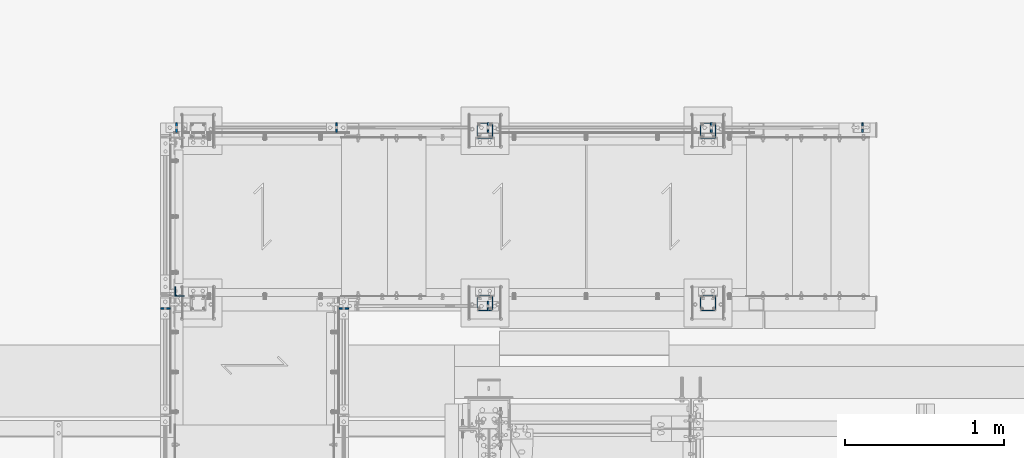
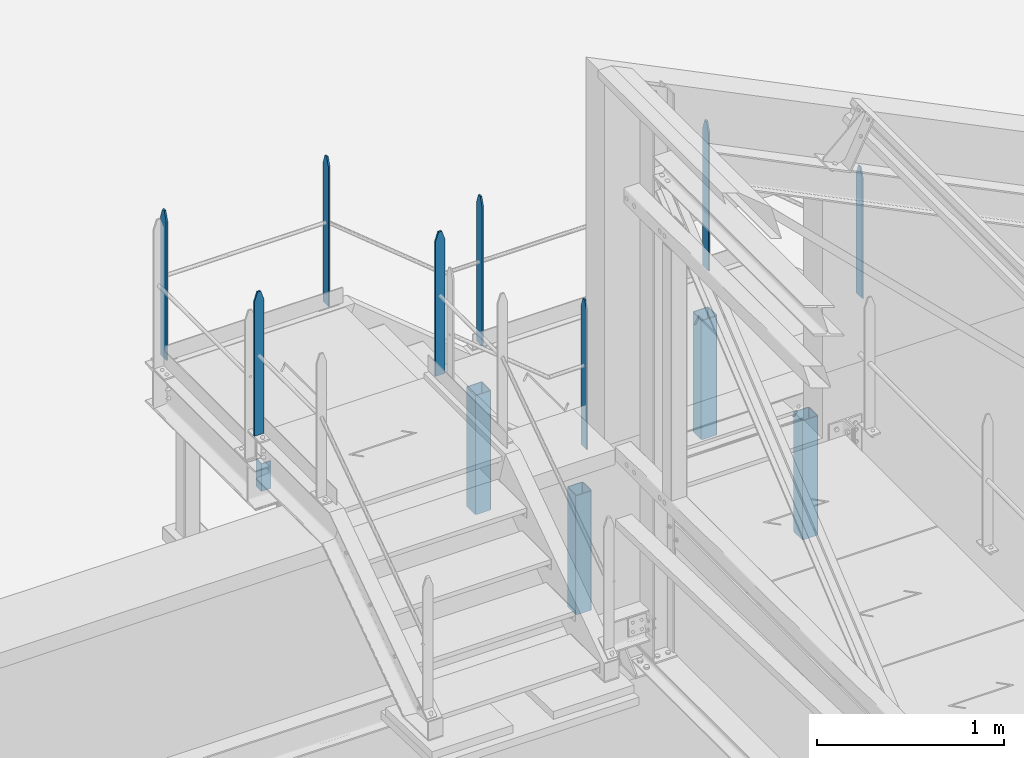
# One storey, part 40 of 362: 13 columns, 9 elements without a shape of their own.
"""IFC2X3 building model written with IfcOpenShell, lengths in millimetres."""

import ifcopenshell
import ifcopenshell.guid

model = None  # the IFC model being written
_history = None  # IfcOwnerHistory: only IFC2X3 demands one
_inside = {}  # id of a spatial element -> (the spatial element, [elements in it])
_under = {}  # id of a project, library or spatial element -> (it, [spatial elements below it])
_declared = {}  # id of a project -> (the project, [libraries it declares])
_typed = {}  # id of a type object -> (the type object, [elements of that type])
_made_of = {}  # id of a material, layer set ... -> (it, [elements and type objects made of it])


def new_model(schema):
    """Start an empty IFC model of exactly this schema.

    Asked for "IFC4X3", IfcOpenShell would pick the latest addendum, in which some entities
    have other attributes; the version numbers below select the first issue.
    IFC2X3 requires an IfcOwnerHistory on every rooted entity: one is made here for all.
    """
    global model, _history
    if schema == "IFC4X3":
        model = ifcopenshell.file(schema_version=(4, 3, 0, 0))
    else:
        model = ifcopenshell.file(schema=schema)
    _inside.clear()
    _under.clear()
    _declared.clear()
    _typed.clear()
    _made_of.clear()
    _history = None
    if model.schema == "IFC2X3":
        org = make("IfcOrganization", Name="unknown")
        user = make(
            "IfcPersonAndOrganization",
            ThePerson=make("IfcPerson", FamilyName="unknown"),
            TheOrganization=org,
        )
        app = make(
            "IfcApplication",
            ApplicationDeveloper=org,
            Version="unknown",
            ApplicationFullName="unknown",
            ApplicationIdentifier="unknown",
        )
        _history = make(
            "IfcOwnerHistory",
            OwningUser=user,
            OwningApplication=app,
            ChangeAction="ADDED",
            CreationDate=0,
        )
    return model


def make(cls, **values):
    """One entity of the class cls with the attributes given. An attribute that is None is left unset."""
    return model.create_entity(
        cls, **{name: value for name, value in values.items() if value is not None}
    )


def rooted(cls, **values):
    """An entity with a GlobalId (a new one), such as an element, a storey or a relation."""
    return make(cls, GlobalId=ifcopenshell.guid.new(), OwnerHistory=_history, **values)


def si_unit(unit_type, name, prefix=None):
    """IfcSIUnit, for example si_unit("LENGTHUNIT", "METRE", prefix="MILLI")."""
    return make("IfcSIUnit", UnitType=unit_type, Prefix=prefix, Name=name)


def assignment(units):
    """IfcUnitAssignment: the units of a project."""
    return None if units is None else make("IfcUnitAssignment", Units=units)


def point(xyz):
    """IfcCartesianPoint."""
    return None if xyz is None else make("IfcCartesianPoint", Coordinates=xyz)


def direction(xyz):
    """IfcDirection."""
    return None if xyz is None else make("IfcDirection", DirectionRatios=xyz)


def frame(location, z_axis=None, x_axis=None):
    """IfcAxis2Placement3D, a coordinate frame: its origin and axes. An axis left out is left unset."""
    return make(
        "IfcAxis2Placement3D",
        Location=point(location),
        Axis=direction(z_axis),
        RefDirection=direction(x_axis),
    )


def frame_2d(location, x_axis=None):
    """IfcAxis2Placement2D, a coordinate frame in the plane: its origin and x axis."""
    return make(
        "IfcAxis2Placement2D", Location=point(location), RefDirection=direction(x_axis)
    )


def origin_with_axes():
    """The frame at (0, 0, 0) with the z axis (0, 0, 1) and the x axis (1, 0, 0) written out."""
    return frame((0.0, 0.0, 0.0), z_axis=(0.0, 0.0, 1.0), x_axis=(1.0, 0.0, 0.0))


def origin_2d_with_axis():
    """The frame at (0, 0) in the plane with the x axis (1, 0) written out."""
    return frame_2d((0.0, 0.0), x_axis=(1.0, 0.0))


def place(relative_to, where):
    """IfcLocalPlacement: puts the frame where relative to a parent placement (None: the world)."""
    return make(
        "IfcLocalPlacement", PlacementRelTo=relative_to, RelativePlacement=where
    )


def context(
    kind, dimensions, precision=None, world=None, true_north=None, identifier=None
):
    """IfcGeometricRepresentationContext, for example the 3D "Model" context."""
    return make(
        "IfcGeometricRepresentationContext",
        ContextIdentifier=identifier,
        ContextType=kind,
        CoordinateSpaceDimension=dimensions,
        Precision=precision,
        WorldCoordinateSystem=world,
        TrueNorth=true_north,
    )


def subcontext(parent, identifier, kind, view, scale=None):
    """IfcGeometricRepresentationSubContext, for example "Body" below "Model"."""
    return make(
        "IfcGeometricRepresentationSubContext",
        ContextIdentifier=identifier,
        ContextType=kind,
        ParentContext=parent,
        TargetScale=scale,
        TargetView=view,
    )


def project(units=None, contexts=None):
    """IfcProject with its units and contexts."""
    return rooted(
        "IfcProject",
        Name="project",
        RepresentationContexts=contexts,
        UnitsInContext=assignment(units),
    )


def spatial(cls, under=None, at=None, **own):
    """A site, building, storey or space (cls), placed at a placement, below another one or the project."""
    s = rooted(cls, ObjectPlacement=at, **own)
    if under is not None:
        _under.setdefault(under.id(), (under, []))[1].append(s)
    return s


def profile(cls, at=None, kind="AREA", **sizes):
    """A parametric profile (cls). Its sizes go by their IFC names, for example OverallWidth=200.0."""
    return make(cls, ProfileType=kind, Position=at, **sizes)


def rectangle(**sizes):
    """IfcRectangleProfileDef."""
    return profile("IfcRectangleProfileDef", **sizes)


def hollow_rectangle(**sizes):
    """IfcRectangleHollowProfileDef."""
    return profile("IfcRectangleHollowProfileDef", **sizes)


def l_section(**sizes):
    """IfcLShapeProfileDef."""
    return profile("IfcLShapeProfileDef", **sizes)


def extrude(swept, where, along, depth):
    """IfcExtrudedAreaSolid: the profile swept, set in the frame where, extruded along a direction by depth."""
    return make(
        "IfcExtrudedAreaSolid",
        SweptArea=swept,
        Position=where,
        ExtrudedDirection=direction(along),
        Depth=depth,
    )


def clip(a, b, op="DIFFERENCE"):
    """IfcBooleanClippingResult: the solid a cut by the half space b."""
    return make(
        "IfcBooleanClippingResult", Operator=op, FirstOperand=a, SecondOperand=b
    )


def halfspace(plane, agree):
    """IfcHalfSpaceSolid: all space on one side of the plane z = 0 of the frame plane."""
    return make(
        "IfcHalfSpaceSolid",
        BaseSurface=make("IfcPlane", Position=plane),
        AgreementFlag=agree,
    )


def shape(context_of_items, identifier, shape_type, items):
    """IfcShapeRepresentation: the items that make up one representation, for example the "Body"."""
    return make(
        "IfcShapeRepresentation",
        ContextOfItems=context_of_items,
        RepresentationIdentifier=identifier,
        RepresentationType=shape_type,
        Items=items,
    )


def material(Name=None, Category=None):
    """IfcMaterial."""
    return make("IfcMaterial", Name=Name, Category=Category)


def made_of(thing, what):
    """Note that an element or type object is made of a material, layer set ...; save() writes the relation."""
    if what is not None:
        _made_of.setdefault(what.id(), (what, []))[1].append(thing)
    return thing


def type_object(cls, material=None, **own):
    """A type object (cls), such as IfcWallType, which elements share."""
    return made_of(rooted(cls, **own), material)


def element(
    cls,
    number,
    at=None,
    inside=None,
    cuts=None,
    type_object=None,
    material=None,
    context=None,
    identifier="Body",
    shape_type=None,
    held_by="IfcProductDefinitionShape",
    body=None,
    shapes=None,
    **own,
):
    """One element of the class cls, such as IfcWall. Its Tag is "e" and its number.

    at: its placement. inside: the storey or other place that contains it. cuts: it is an
    opening in that element (IfcRelVoidsElement). A single representation is given by context,
    identifier, shape_type and body (its items); several are given by shapes. held_by: the class
    of the entity that holds the representations. save() writes the other relations.
    """
    e = rooted(cls, Tag="e%d" % number, ObjectPlacement=at, **own)
    if body is not None:
        shapes = [shape(context, identifier, shape_type, body)]
    if shapes is not None:
        e.Representation = make(held_by, Representations=shapes)
    if inside is not None:
        _inside.setdefault(inside.id(), (inside, []))[1].append(e)
    if cuts is not None:
        rooted(
            "IfcRelVoidsElement", RelatingBuildingElement=cuts, RelatedOpeningElement=e
        )
    if type_object is not None:
        _typed.setdefault(type_object.id(), (type_object, []))[1].append(e)
    return made_of(e, material)


def aggregate(whole, parts):
    """IfcRelAggregates: a whole, such as a stair, and the parts it consists of."""
    return rooted("IfcRelAggregates", RelatingObject=whole, RelatedObjects=parts)


def save(model, path):
    """Write the relations noted so far, then the file.

    IfcRelAggregates (storeys below a building ...), IfcRelContainedInSpatialStructure (elements
    in a storey), IfcRelDefinesByType, IfcRelAssociatesMaterial and IfcRelDeclares: one each for
    every whole, place, type object, material and project.
    """
    for whole, parts in _under.values():
        aggregate(whole, parts)
    for where, things in _inside.values():
        rooted(
            "IfcRelContainedInSpatialStructure",
            RelatedElements=things,
            RelatingStructure=where,
        )
    for kind, things in _typed.values():
        rooted("IfcRelDefinesByType", RelatedObjects=things, RelatingType=kind)
    for what, things in _made_of.values():
        rooted("IfcRelAssociatesMaterial", RelatedObjects=things, RelatingMaterial=what)
    for by, libraries in _declared.values():
        rooted("IfcRelDeclares", RelatingContext=by, RelatedDefinitions=libraries)
    model.write(path)


model = new_model("IFC2X3")

# Units and contexts
model_context = context("Model", 3, precision=1e-05, world=origin_with_axes())
body_context = subcontext(model_context, "Body", "Model", "MODEL_VIEW")
ifc_project = project(units=[si_unit("LENGTHUNIT", "METRE", prefix="MILLI"), si_unit("AREAUNIT", "SQUARE_METRE"), si_unit("VOLUMEUNIT", "CUBIC_METRE"), si_unit("MASSUNIT", "GRAM", prefix="KILO"), si_unit("TIMEUNIT", "SECOND"), si_unit("PLANEANGLEUNIT", "RADIAN"), si_unit("SOLIDANGLEUNIT", "STERADIAN"), si_unit("THERMODYNAMICTEMPERATUREUNIT", "DEGREE_CELSIUS"), si_unit("LUMINOUSINTENSITYUNIT", "LUMEN")], contexts=[model_context])

# Site, building, storey
site_placement = place(None, origin_with_axes())
site = spatial("IfcSite", under=ifc_project, at=site_placement, Name="Undefined", CompositionType="ELEMENT")
building_placement = place(site_placement, origin_with_axes())
building = spatial("IfcBuilding", under=site, at=building_placement, Name="Undefined", CompositionType="ELEMENT")
storey_placement = place(building_placement, origin_with_axes())
storey = spatial("IfcBuildingStorey", under=building, at=storey_placement, Name="Undefined", CompositionType="ELEMENT", Elevation=0.0)

# Assembly, column
assembly_1_placement = place(storey_placement, origin_with_axes())
assembly_1 = element("IfcElementAssembly", 1, at=assembly_1_placement, inside=storey, Name="MAIN COURANTE", AssemblyPlace="NOTDEFINED", PredefinedType="NOTDEFINED")
ifc_material = material(Name="Undefined/S235-E24")
column_type_1 = type_object("IfcColumnType", Name="PL10*60", PredefinedType="NOTDEFINED")
column_1_placement = place(assembly_1_placement, frame((34275.0061849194, 15970.0000882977, 9087.59993922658), z_axis=(0.0, 0.0, -1.0), x_axis=(0.0, 1.0, 0.0)))
column_1 = element("IfcColumn", 2, at=column_1_placement, type_object=column_type_1, material=ifc_material, Name="MONTANT", ObjectType="PL10*60", context=body_context, shape_type="Clipping", body=[
    clip(clip(extrude(rectangle(XDim=10.0, YDim=60.0, at=origin_2d_with_axis()), frame((0.0, 0.0, 967.599998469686), z_axis=(0.0, 0.0, -1.0), x_axis=(0.0, 1.0, 0.0)), (0.0, 0.0, 1.0), 967.6), halfspace(frame((-30.0, 5.0, -120.0), z_axis=(0.948683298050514, 0.0, -0.316227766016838), x_axis=(0.0, -1.0, 0.0)), False)), halfspace(frame((-30.0, 5.0, 60.0), z_axis=(-0.948683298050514, 0.0, -0.316227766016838), x_axis=(0.0, -1.0, 0.0)), False)),
])
aggregate(assembly_1, [column_1])

# Assembly, columns
assembly_2_placement = place(storey_placement, origin_with_axes())
assembly_2 = element("IfcElementAssembly", 3, at=assembly_2_placement, inside=storey, Name="MAIN COURANTE", AssemblyPlace="NOTDEFINED", PredefinedType="NOTDEFINED")
column_2_placement = place(assembly_2_placement, frame((33325.0061849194, 17089.9938659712, 9677.59999847), z_axis=(0.0, 0.0, -1.0), x_axis=(0.0, -1.0, 0.0)))
column_2 = element("IfcColumn", 4, at=column_2_placement, type_object=column_type_1, material=ifc_material, Name="MONTANT", ObjectType="PL10*60", context=body_context, shape_type="Clipping", body=[
    clip(clip(extrude(rectangle(XDim=10.0, YDim=60.0, at=origin_2d_with_axis()), frame((0.0, 0.0, 967.599998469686), z_axis=(0.0, 0.0, -1.0), x_axis=(0.0, 1.0, 0.0)), (0.0, 0.0, 1.0), 967.6), halfspace(frame((-30.0, -5.0, -120.0), z_axis=(0.948683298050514, 0.0, -0.316227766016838), x_axis=(0.316227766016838, 0.0, 0.948683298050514)), False)), halfspace(frame((-30.0, -5.0, 60.0), z_axis=(-0.948683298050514, 0.0, -0.316227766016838), x_axis=(0.316227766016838, 0.0, -0.948683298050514)), False)),
])
column_3_placement = place(assembly_2_placement, frame((32319.9961849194, 17089.9938659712, 9677.59999847), z_axis=(0.0, 0.0, -1.0), x_axis=(0.0, -1.0, 0.0)))
column_3 = element("IfcColumn", 5, at=column_3_placement, type_object=column_type_1, material=ifc_material, Name="MONTANT", ObjectType="PL10*60", context=body_context, shape_type="Clipping", body=[
    clip(clip(extrude(rectangle(XDim=10.0, YDim=60.0, at=origin_2d_with_axis()), frame((0.0, 0.0, 967.599998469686), z_axis=(0.0, 0.0, -1.0), x_axis=(0.0, 1.0, 0.0)), (0.0, 0.0, 1.0), 967.6), halfspace(frame((-30.0, -5.0, -120.0), z_axis=(0.948683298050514, 0.0, -0.316227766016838), x_axis=(0.316227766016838, 0.0, 0.948683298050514)), False)), halfspace(frame((-30.0, -5.0, 60.0), z_axis=(-0.948683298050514, 0.0, -0.316227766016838), x_axis=(0.316227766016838, 0.0, -0.948683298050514)), False)),
])
column_4_placement = place(assembly_2_placement, frame((35675.0061849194, 17089.9938659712, 9087.59993922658), z_axis=(0.0, 0.0, -1.0), x_axis=(0.0, -1.0, 0.0)))
column_4 = element("IfcColumn", 6, at=column_4_placement, type_object=column_type_1, material=ifc_material, Name="MONTANT", ObjectType="PL10*60", context=body_context, shape_type="Clipping", body=[
    clip(clip(extrude(rectangle(XDim=10.0, YDim=60.0, at=origin_2d_with_axis()), frame((0.0, 0.0, 967.599939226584), z_axis=(0.0, 0.0, -1.0), x_axis=(0.0, 1.0, 0.0)), (0.0, 0.0, 1.0), 967.6), halfspace(frame((-30.0, -5.0, -120.0), z_axis=(0.948683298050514, 0.0, -0.316227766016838), x_axis=(0.316227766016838, 0.0, 0.948683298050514)), False)), halfspace(frame((-30.0, -5.0, 60.0), z_axis=(-0.948683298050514, 0.0, -0.316227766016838), x_axis=(0.316227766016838, 0.0, -0.948683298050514)), False)),
])
column_5_placement = place(assembly_2_placement, frame((34275.0061849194, 17089.9938659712, 9087.59993922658), z_axis=(0.0, 0.0, -1.0), x_axis=(0.0, -1.0, 0.0)))
column_5 = element("IfcColumn", 7, at=column_5_placement, type_object=column_type_1, material=ifc_material, Name="MONTANT", ObjectType="PL10*60", context=body_context, shape_type="Clipping", body=[
    clip(clip(extrude(rectangle(XDim=10.0, YDim=60.0, at=origin_2d_with_axis()), frame((0.0, 0.0, 967.599998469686), z_axis=(0.0, 0.0, -1.0), x_axis=(0.0, 1.0, 0.0)), (0.0, 0.0, 1.0), 967.6), halfspace(frame((-30.0, -5.0, -120.0), z_axis=(0.948683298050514, 0.0, -0.316227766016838), x_axis=(0.316227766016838, 0.0, 0.948683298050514)), False)), halfspace(frame((-30.0, -5.0, 60.0), z_axis=(-0.948683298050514, 0.0, -0.316227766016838), x_axis=(0.316227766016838, 0.0, -0.948683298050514)), False)),
])
column_6_placement = place(assembly_2_placement, frame((36625.0061849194, 17089.9938659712, 8458.13573617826), z_axis=(0.0, 0.0, -1.0), x_axis=(0.0, -1.0, 0.0)))
column_6 = element("IfcColumn", 8, at=column_6_placement, type_object=column_type_1, material=ifc_material, Name="MONTANT", ObjectType="PL10*60", context=body_context, shape_type="Clipping", body=[
    clip(clip(clip(clip(extrude(rectangle(XDim=10.0, YDim=60.0, at=origin_2d_with_axis()), frame((0.0, 0.0, 860.207207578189), z_axis=(0.0, 0.0, -1.0), x_axis=(0.0, 1.0, 0.0)), (0.0, 0.0, 1.0), 868.62), halfspace(frame((-30.0, -5.0, -120.0), z_axis=(0.948683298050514, 0.0, -0.316227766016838), x_axis=(0.316227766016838, 0.0, 0.948683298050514)), False)), halfspace(frame((-30.0, -5.0, 60.0), z_axis=(-0.948683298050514, 0.0, -0.316227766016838), x_axis=(0.316227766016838, 0.0, -0.948683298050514)), False)), halfspace(frame((0.0, -7.81419051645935, 858.302366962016), z_axis=(0.0, 0.64018439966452, 0.768221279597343), x_axis=(-1.0, 0.0, 0.0)), False)), halfspace(frame((0.0, -6.92990936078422, 5.77492361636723), z_axis=(0.0, 0.64018439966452, 0.768221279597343), x_axis=(-1.0, 0.0, 0.0)), True)),
])
aggregate(assembly_2, [column_2, column_3, column_4, column_5, column_6])

# Assembly, column
assembly_3_placement = place(storey_placement, origin_with_axes())
assembly_3 = element("IfcElementAssembly", 9, at=assembly_3_placement, inside=storey, Name="MAIN COURANTE", AssemblyPlace="NOTDEFINED", PredefinedType="NOTDEFINED")
column_7_placement = place(assembly_3_placement, frame((32249.9862112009, 15955.003622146, 9857.59999847), z_axis=(0.0, 0.0, -1.0), x_axis=(-0.99999999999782, -2.08799999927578e-06, 0.0)))
column_7 = element("IfcColumn", 10, at=column_7_placement, type_object=column_type_1, material=ifc_material, Name="MONTANT", ObjectType="PL10*60", context=body_context, shape_type="Clipping", body=[
    clip(clip(extrude(rectangle(XDim=10.0, YDim=60.0, at=origin_2d_with_axis()), frame((0.0, 0.0, 937.599998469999), z_axis=(0.0, 0.0, -1.0), x_axis=(0.0, 1.0, 0.0)), (0.0, 0.0, 1.0), 937.6), halfspace(frame((-30.0, 5.0, -119.999937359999), z_axis=(0.948683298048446, 1.98085072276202e-06, -0.316227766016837), x_axis=(-3.63797880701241e-15, -0.999999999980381, -6.26399999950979e-06)), False)), halfspace(frame((-30.0, 5.0, 60.0), z_axis=(-0.948683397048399, -1.98084886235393e-06, -0.316227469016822), x_axis=(-3.63797880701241e-15, -0.999999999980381, 6.26399999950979e-06)), False)),
])
aggregate(assembly_3, [column_7])

assembly_4_placement = place(storey_placement, origin_with_axes())
assembly_4 = element("IfcElementAssembly", 11, at=assembly_4_placement, inside=storey, Name="MAIN COURANTE", AssemblyPlace="NOTDEFINED", PredefinedType="NOTDEFINED")
column_8_placement = place(assembly_4_placement, frame((33369.9937887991, 15954.9996684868, 9857.59999847), z_axis=(0.0, 0.0, -1.0), x_axis=(0.999999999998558, -1.69800000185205e-06, 0.0)))
column_8 = element("IfcColumn", 12, at=column_8_placement, type_object=column_type_1, material=ifc_material, Name="MONTANT", ObjectType="PL10*60", context=body_context, shape_type="Clipping", body=[
    clip(clip(extrude(rectangle(XDim=10.0, YDim=60.0, at=origin_2d_with_axis()), frame((0.0, 0.0, 937.599998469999), z_axis=(0.0, 0.0, -1.0), x_axis=(0.0, 1.0, 0.0)), (0.0, 0.0, 1.0), 937.6), halfspace(frame((-29.9999999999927, -4.99999999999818, -119.999937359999), z_axis=(0.948683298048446, -1.98085071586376e-06, -0.316227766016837), x_axis=(0.316227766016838, 0.0, 0.948683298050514)), False)), halfspace(frame((-30.0, -5.0, 60.0), z_axis=(-0.948683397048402, 1.98084885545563e-06, -0.316227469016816), x_axis=(0.316227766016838, 0.0, -0.948683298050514)), False)),
])
aggregate(assembly_4, [column_8])

assembly_5_placement = place(storey_placement, origin_with_axes())
assembly_5 = element("IfcElementAssembly", 13, at=assembly_5_placement, inside=storey, AssemblyPlace="NOTDEFINED", PredefinedType="NOTDEFINED")
column_type_2 = type_object("IfcColumnType", Name="TUBE-C-100*100*5", PredefinedType="NOTDEFINED")
column_9_placement = place(assembly_5_placement, frame((34255.0000000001, 15989.9999136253, 7062.0), z_axis=(0.0, 0.0, 1.0), x_axis=(0.0, 1.0, 0.0)))
column_9 = element("IfcColumn", 14, at=column_9_placement, type_object=column_type_2, material=ifc_material, Name="POTELET", ObjectType="TUBE-C-100*100*5", context=body_context, shape_type="SweptSolid", body=[
    extrude(hollow_rectangle(XDim=100.0, YDim=100.0, WallThickness=5.0, InnerFilletRadius=5.0, OuterFilletRadius=10.0, at=origin_2d_with_axis()), frame((0.0, 0.0, 780.000011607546), z_axis=(0.0, 0.0, -1.0), x_axis=(0.0, 1.0, 0.0)), (0.0, 0.0, 1.0), 780.0),
])
aggregate(assembly_5, [column_9])

assembly_6_placement = place(storey_placement, origin_with_axes())
assembly_6 = element("IfcElementAssembly", 15, at=assembly_6_placement, inside=storey, AssemblyPlace="NOTDEFINED", PredefinedType="NOTDEFINED")
column_10_placement = place(assembly_6_placement, frame((35655.0000000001, 15989.9999136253, 7062.0), z_axis=(0.0, 0.0, 1.0), x_axis=(0.0, 1.0, 0.0)))
column_10 = element("IfcColumn", 16, at=column_10_placement, type_object=column_type_2, material=ifc_material, Name="POTELET", ObjectType="TUBE-C-100*100*5", context=body_context, shape_type="SweptSolid", body=[
    extrude(hollow_rectangle(XDim=100.0, YDim=100.0, WallThickness=5.0, InnerFilletRadius=5.0, OuterFilletRadius=10.0, at=origin_2d_with_axis()), frame((0.0, 0.0, 780.000011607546), z_axis=(0.0, 0.0, -1.0), x_axis=(0.0, 1.0, 0.0)), (0.0, 0.0, 1.0), 780.0),
])
aggregate(assembly_6, [column_10])

assembly_7_placement = place(storey_placement, origin_with_axes())
assembly_7 = element("IfcElementAssembly", 17, at=assembly_7_placement, inside=storey, AssemblyPlace="NOTDEFINED", PredefinedType="NOTDEFINED")
column_11_placement = place(assembly_7_placement, frame((34255.0000000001, 17069.9996684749, 7062.0), z_axis=(0.0, 0.0, 1.0), x_axis=(0.0, -1.0, 0.0)))
column_11 = element("IfcColumn", 18, at=column_11_placement, type_object=column_type_2, material=ifc_material, Name="POTELET", ObjectType="TUBE-C-100*100*5", context=body_context, shape_type="SweptSolid", body=[
    extrude(hollow_rectangle(XDim=100.0, YDim=100.0, WallThickness=5.0, InnerFilletRadius=5.0, OuterFilletRadius=10.0, at=origin_2d_with_axis()), frame((0.0, 0.0, 780.000011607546), z_axis=(0.0, 0.0, -1.0), x_axis=(0.0, 1.0, 0.0)), (0.0, 0.0, 1.0), 780.0),
])
aggregate(assembly_7, [column_11])

assembly_8_placement = place(storey_placement, origin_with_axes())
assembly_8 = element("IfcElementAssembly", 19, at=assembly_8_placement, inside=storey, AssemblyPlace="NOTDEFINED", PredefinedType="NOTDEFINED")
column_12_placement = place(assembly_8_placement, frame((35655.0000000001, 17069.9996684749, 7062.0), z_axis=(0.0, 0.0, 1.0), x_axis=(0.0, -1.0, 0.0)))
column_12 = element("IfcColumn", 20, at=column_12_placement, type_object=column_type_2, material=ifc_material, Name="POTELET", ObjectType="TUBE-C-100*100*5", context=body_context, shape_type="SweptSolid", body=[
    extrude(hollow_rectangle(XDim=100.0, YDim=100.0, WallThickness=5.0, InnerFilletRadius=5.0, OuterFilletRadius=10.0, at=origin_2d_with_axis()), frame((0.0, 0.0, 780.000011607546), z_axis=(0.0, 0.0, -1.0), x_axis=(0.0, 1.0, 0.0)), (0.0, 0.0, 1.0), 780.0),
])
aggregate(assembly_8, [column_12])

assembly_9_placement = place(storey_placement, origin_with_axes())
assembly_9 = element("IfcElementAssembly", 21, at=assembly_9_placement, inside=storey, AssemblyPlace="NOTDEFINED", PredefinedType="NOTDEFINED")
column_type_3 = type_object("IfcColumnType", Name="L60*6", PredefinedType="NOTDEFINED")
column_13_placement = place(assembly_9_placement, frame((32340.0061849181, 16059.9933714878, 8480.0), z_axis=(0.0, 0.0, 1.0), x_axis=(1.0, 0.0, 0.0)))
column_13 = element("IfcColumn", 22, at=column_13_placement, type_object=column_type_3, material=ifc_material, Name="ATTACHE", ObjectType="L60*6", context=body_context, shape_type="SweptSolid", body=[
    extrude(l_section(Depth=60.0, Width=60.0, Thickness=6.0, FilletRadius=8.0, EdgeRadius=4.0, at=origin_2d_with_axis()), frame((0.0, 0.0, 180.0), z_axis=(0.0, 0.0, -1.0), x_axis=(0.0, 1.0, 0.0)), (0.0, 0.0, 1.0), 180.0),
])
aggregate(assembly_9, [column_13])

save(model, "model.ifc")
